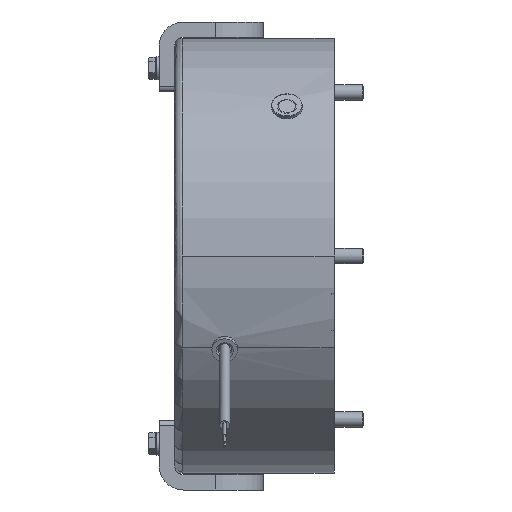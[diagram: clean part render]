
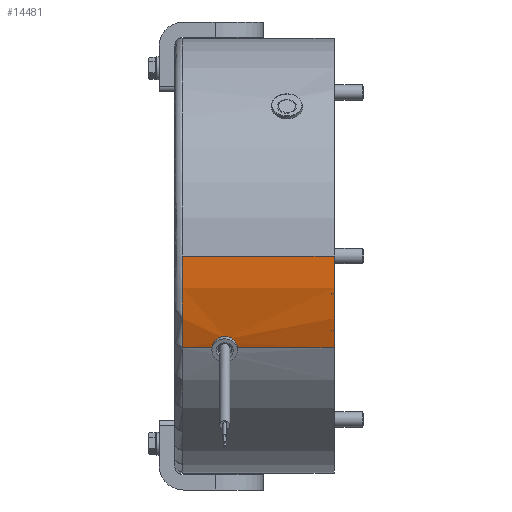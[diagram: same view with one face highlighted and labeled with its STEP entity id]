
A CAD part, front view. The second image highlights one B-rep face of the part: STEP entity #14481.
In plain terms, the highlighted cylindrical face has radius 113 mm (diameter 226 mm), a partial arc.
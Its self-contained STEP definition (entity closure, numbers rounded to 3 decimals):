
#279=B_SPLINE_CURVE_WITH_KNOTS('',3,(#23645,#23646,#23647,#23648,#23649,
#23650,#23651,#23652,#23653,#23654,#23655,#23656,#23657,#23658,#23659,#23660,
#23661,#23662,#23663),.UNSPECIFIED.,.F.,.F.,(4,2,2,2,3,2,2,2,4),(2.348,
2.544,2.74,2.936,3.131,3.327,
3.523,3.718,3.914),.UNSPECIFIED.);
#1223=FACE_OUTER_BOUND('',#2093,.T.);
#2093=EDGE_LOOP('',(#10079,#10080,#10081,#10082,#10083,#10084,#10085,#10086));
#2910=LINE('',#23276,#3623);
#2911=LINE('',#23284,#3624);
#2912=LINE('',#23290,#3625);
#2913=LINE('',#23292,#3626);
#2914=LINE('',#23312,#3627);
#3623=VECTOR('',#17985,113.);
#3624=VECTOR('',#17992,113.);
#3625=VECTOR('',#17997,113.);
#3626=VECTOR('',#17998,10.);
#3627=VECTOR('',#17999,10.);
#4496=CIRCLE('',#15640,113.);
#4497=CIRCLE('',#15641,113.);
#5574=VERTEX_POINT('',#23274);
#5575=VERTEX_POINT('',#23275);
#5578=VERTEX_POINT('',#23281);
#5579=VERTEX_POINT('',#23283);
#5581=VERTEX_POINT('',#23287);
#5582=VERTEX_POINT('',#23289);
#5583=VERTEX_POINT('',#23291);
#5584=VERTEX_POINT('',#23293);
#7200=EDGE_CURVE('',#5574,#5575,#2910,.T.);
#7204=EDGE_CURVE('',#5579,#5578,#2911,.T.);
#7207=EDGE_CURVE('',#5582,#5581,#2912,.T.);
#7208=EDGE_CURVE('',#5583,#5582,#2913,.T.);
#7210=EDGE_CURVE('',#5575,#5584,#2914,.T.);
#7302=EDGE_CURVE('',#5584,#5583,#279,.T.);
#7324=EDGE_CURVE('',#5579,#5581,#4496,.T.);
#7325=EDGE_CURVE('',#5574,#5578,#4497,.T.);
#10079=ORIENTED_EDGE('',*,*,#7200,.T.);
#10080=ORIENTED_EDGE('',*,*,#7210,.T.);
#10081=ORIENTED_EDGE('',*,*,#7302,.T.);
#10082=ORIENTED_EDGE('',*,*,#7208,.T.);
#10083=ORIENTED_EDGE('',*,*,#7207,.T.);
#10084=ORIENTED_EDGE('',*,*,#7324,.F.);
#10085=ORIENTED_EDGE('',*,*,#7204,.T.);
#10086=ORIENTED_EDGE('',*,*,#7325,.F.);
#13210=CYLINDRICAL_SURFACE('',#15639,113.);
#14481=ADVANCED_FACE('',(#1223),#13210,.T.);
#15639=AXIS2_PLACEMENT_3D('',#23722,#18256,#18257);
#15640=AXIS2_PLACEMENT_3D('',#23723,#18258,#18259);
#15641=AXIS2_PLACEMENT_3D('',#23724,#18260,#18261);
#17985=DIRECTION('',(1.,0.,0.));
#17992=DIRECTION('',(-1.,0.,0.));
#17997=DIRECTION('',(1.,0.,0.));
#17998=DIRECTION('',(1.,0.,0.));
#17999=DIRECTION('',(1.,0.,0.));
#18256=DIRECTION('center_axis',(1.,0.,0.));
#18257=DIRECTION('ref_axis',(0.,0.906,0.423));
#18258=DIRECTION('center_axis',(1.,0.,0.));
#18259=DIRECTION('ref_axis',(0.,1.,0.));
#18260=DIRECTION('center_axis',(-1.,0.,0.));
#18261=DIRECTION('ref_axis',(0.,-1.,0.));
#23274=CARTESIAN_POINT('',(-78.8,-102.413,-47.756));
#23275=CARTESIAN_POINT('',(-63.4,-102.413,-47.756));
#23276=CARTESIAN_POINT('',(-41.4,-102.413,-47.756));
#23281=CARTESIAN_POINT('',(-78.8,-113.,0.));
#23283=CARTESIAN_POINT('',(0.,-113.,0.));
#23284=CARTESIAN_POINT('',(-41.4,-113.,0.));
#23287=CARTESIAN_POINT('',(0.,-102.413,-47.756));
#23289=CARTESIAN_POINT('',(-50.2,-102.413,-47.756));
#23290=CARTESIAN_POINT('',(-41.4,-102.413,-47.756));
#23291=CARTESIAN_POINT('',(-51.6,-102.413,-47.756));
#23292=CARTESIAN_POINT('',(-41.4,-102.413,-47.756));
#23293=CARTESIAN_POINT('',(-62.,-102.413,-47.756));
#23312=CARTESIAN_POINT('',(-41.4,-102.413,-47.756));
#23645=CARTESIAN_POINT('Ctrl Pts',(-62.,-102.413,-47.756));
#23646=CARTESIAN_POINT('Ctrl Pts',(-62.,-102.689,-47.164));
#23647=CARTESIAN_POINT('Ctrl Pts',(-61.869,-102.977,
-46.531));
#23648=CARTESIAN_POINT('Ctrl Pts',(-61.337,-103.498,
-45.361));
#23649=CARTESIAN_POINT('Ctrl Pts',(-60.936,-103.73,
-44.825));
#23650=CARTESIAN_POINT('Ctrl Pts',(-60.011,-104.092,
-43.979));
#23651=CARTESIAN_POINT('Ctrl Pts',(-59.427,-104.246,
-43.611));
#23652=CARTESIAN_POINT('Ctrl Pts',(-58.147,-104.449,
-43.123));
#23653=CARTESIAN_POINT('Ctrl Pts',(-57.452,-104.498,
-43.003));
#23654=CARTESIAN_POINT('Ctrl Pts',(-56.8,-104.498,-43.003));
#23655=CARTESIAN_POINT('Ctrl Pts',(-56.148,-104.498,
-43.003));
#23656=CARTESIAN_POINT('Ctrl Pts',(-55.452,-104.448,
-43.123));
#23657=CARTESIAN_POINT('Ctrl Pts',(-54.172,-104.245,
-43.612));
#23658=CARTESIAN_POINT('Ctrl Pts',(-53.587,-104.091,
-43.98));
#23659=CARTESIAN_POINT('Ctrl Pts',(-52.663,-103.729,
-44.827));
#23660=CARTESIAN_POINT('Ctrl Pts',(-52.263,-103.497,
-45.362));
#23661=CARTESIAN_POINT('Ctrl Pts',(-51.731,-102.977,
-46.531));
#23662=CARTESIAN_POINT('Ctrl Pts',(-51.6,-102.689,
-47.165));
#23663=CARTESIAN_POINT('Ctrl Pts',(-51.6,-102.413,
-47.756));
#23722=CARTESIAN_POINT('Origin',(-41.4,0.,0.));
#23723=CARTESIAN_POINT('Origin',(0.,0.,0.));
#23724=CARTESIAN_POINT('Origin',(-78.8,0.,0.));
